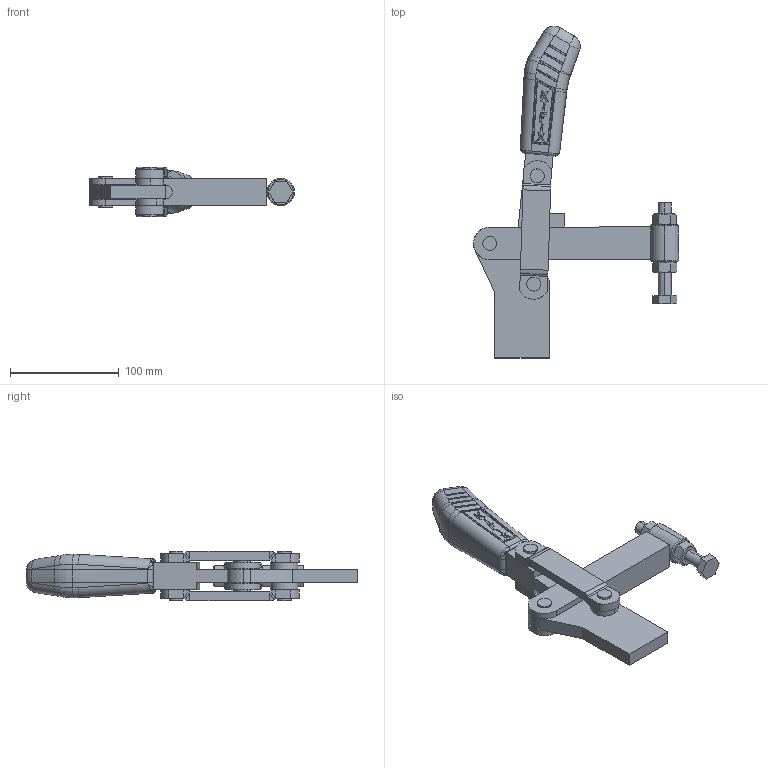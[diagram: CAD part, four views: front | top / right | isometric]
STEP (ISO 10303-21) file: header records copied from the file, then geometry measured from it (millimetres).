
FILE_DESCRIPTION (( 'STEP AP203' ), '1' );
FILE_NAME ('KF-066 S.STEP', '2014-08-13T18:50:47', ( 'Ricardo' ), ( '' ), 'SwSTEP 2.0', 'SolidWorks 2013', '' );
FILE_SCHEMA (( 'CONFIG_CONTROL_DESIGN' ));
Length unit declared in the file: millimetre
Products named in the file (13): 05.20013; 02.11024; 20.20006; 03.20010; 12.50022; 01.20006; 11.50004; 08.10020; PSB-M12; 07.60203; KF-066 S; 16.20016; 16.20017
Assembly tree (17 placements, depth 3):
  KF-066 S
    02.11024
    03.20010
    01.20006
    08.10020  x2
    16.20016  x2
    16.20017  x2
    05.20013  x2
    PSB-M12
      20.20006
      12.50022
      11.50004  x2
    07.60203
Bounding box: 188.42 x 305.06 x 45.27 mm (x, y, z)
Volume: 415415 mm3; surface area: 121147.3 mm2
Topology: 17 solids, 17 shells, 818 faces, 2077 edges, 1309 vertices
Faces by surface type: plane 304, cylinder 291, bspline 183, cone 34, torus 6
Entity records: 28192 total; most frequent: CARTESIAN_POINT 10710, ORIENTED_EDGE 3834, DIRECTION 2661, EDGE_CURVE 1917, VERTEX_POINT 1217, LINE 935, VECTOR 935, AXIS2_PLACEMENT_3D 863
